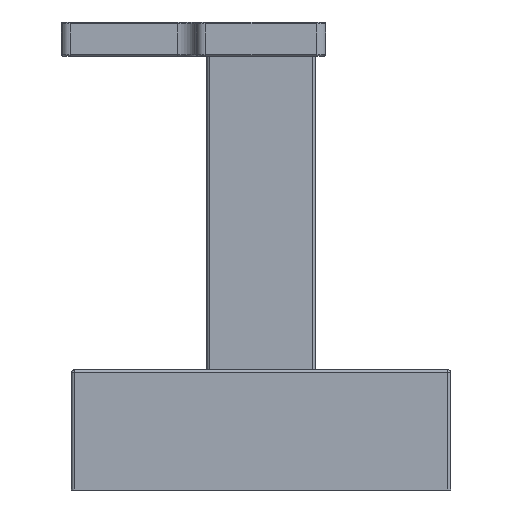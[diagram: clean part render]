
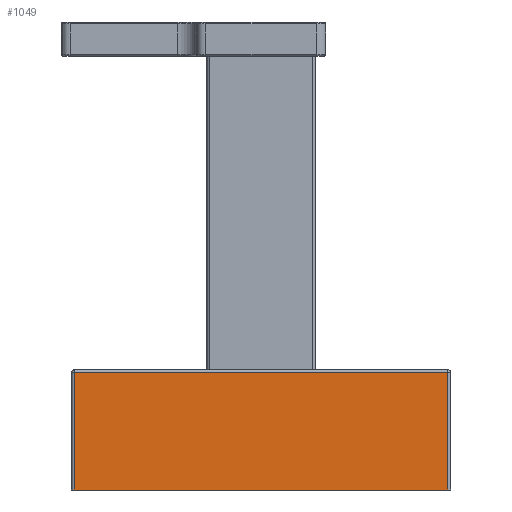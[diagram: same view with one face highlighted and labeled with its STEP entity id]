
A CAD part, left-side view. The second image highlights one B-rep face of the part: STEP entity #1049.
In plain terms, the highlighted planar face has unit normal (-1, 0, 0).
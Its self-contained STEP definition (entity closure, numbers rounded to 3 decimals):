
#83=FACE_OUTER_BOUND('',#153,.T.);
#153=EDGE_LOOP('',(#767,#768,#769,#770));
#284=LINE('',#1668,#368);
#292=LINE('',#1692,#376);
#309=LINE('',#1732,#393);
#310=LINE('',#1734,#394);
#368=VECTOR('',#1297,10.);
#376=VECTOR('',#1321,10.);
#393=VECTOR('',#1366,10.);
#394=VECTOR('',#1369,10.);
#460=VERTEX_POINT('',#1657);
#461=VERTEX_POINT('',#1661);
#464=VERTEX_POINT('',#1666);
#472=VERTEX_POINT('',#1690);
#556=EDGE_CURVE('',#464,#461,#284,.T.);
#568=EDGE_CURVE('',#472,#460,#292,.T.);
#589=EDGE_CURVE('',#460,#464,#309,.T.);
#590=EDGE_CURVE('',#461,#472,#310,.T.);
#767=ORIENTED_EDGE('',*,*,#589,.F.);
#768=ORIENTED_EDGE('',*,*,#568,.F.);
#769=ORIENTED_EDGE('',*,*,#590,.F.);
#770=ORIENTED_EDGE('',*,*,#556,.F.);
#1014=PLANE('',#1154);
#1049=ADVANCED_FACE('',(#83),#1014,.T.);
#1154=AXIS2_PLACEMENT_3D('',#1733,#1367,#1368);
#1297=DIRECTION('',(0.,0.,-1.));
#1321=DIRECTION('',(0.,0.,1.));
#1366=DIRECTION('',(0.,-1.,0.));
#1367=DIRECTION('center_axis',(-1.,0.,0.));
#1368=DIRECTION('ref_axis',(0.,-1.,0.));
#1369=DIRECTION('',(0.,1.,0.));
#1657=CARTESIAN_POINT('',(-20.5,20.2,12.7));
#1661=CARTESIAN_POINT('',(-20.5,-20.2,0.));
#1666=CARTESIAN_POINT('',(-20.5,-20.2,12.7));
#1668=CARTESIAN_POINT('',(-20.5,-20.2,0.));
#1690=CARTESIAN_POINT('',(-20.5,20.2,0.));
#1692=CARTESIAN_POINT('',(-20.5,20.2,0.));
#1732=CARTESIAN_POINT('',(-20.5,10.25,12.7));
#1733=CARTESIAN_POINT('Origin',(-20.5,20.5,0.));
#1734=CARTESIAN_POINT('',(-20.5,-20.5,0.));
